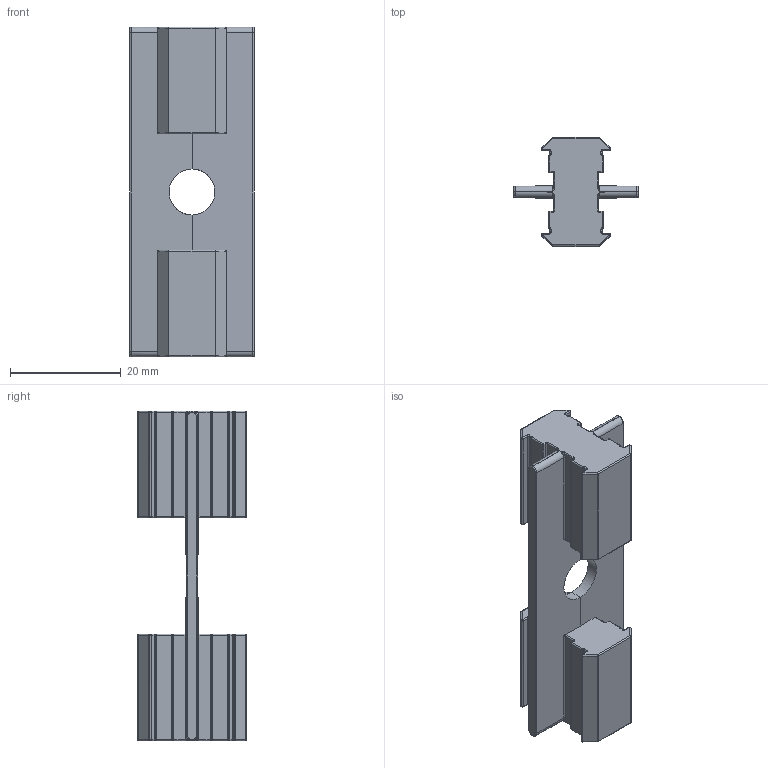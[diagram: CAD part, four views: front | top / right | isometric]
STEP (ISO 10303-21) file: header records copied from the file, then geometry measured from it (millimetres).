
FILE_DESCRIPTION (( 'STEP AP214' ), '1' );
FILE_NAME ('6.04.sppg.STEP', '2015-05-31T08:07:58', ( '' ), ( '' ), 'SwSTEP 2.0', 'SolidWorks 2015', '' );
FILE_SCHEMA (( 'AUTOMOTIVE_DESIGN' ));
Length unit declared in the file: millimetre
Products named in the file (1): 6.04.sppg
Bounding box: 22.4 x 19.6 x 59.5 mm (x, y, z)
Volume: 6759.4 mm3; surface area: 6673.9 mm2
Topology: 1 solids, 1 shells, 512 faces, 1196 edges, 642 vertices
Faces by surface type: cylinder 226, bspline 204, plane 82
Entity records: 16983 total; most frequent: CARTESIAN_POINT 6343, ORIENTED_EDGE 2304, DIRECTION 2212, EDGE_CURVE 1152, AXIS2_PLACEMENT_3D 875, VERTEX_POINT 642, CIRCLE 566, EDGE_LOOP 514
